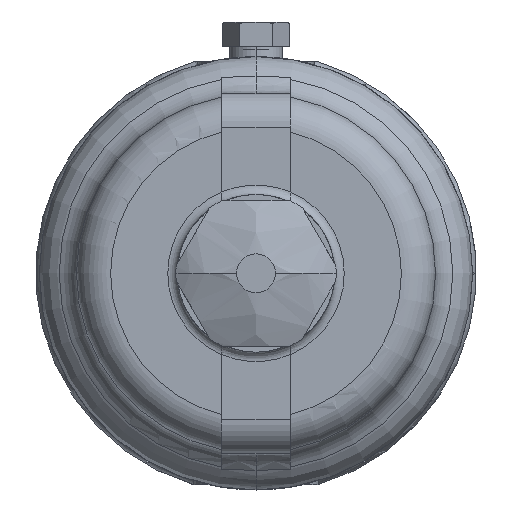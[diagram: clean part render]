
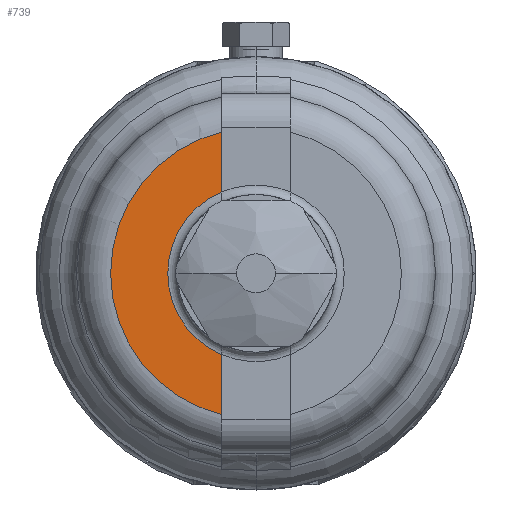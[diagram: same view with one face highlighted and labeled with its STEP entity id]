
A CAD part, left-side view. The second image highlights one B-rep face of the part: STEP entity #739.
In plain terms, the highlighted planar face has unit normal (-1, 0, 0).
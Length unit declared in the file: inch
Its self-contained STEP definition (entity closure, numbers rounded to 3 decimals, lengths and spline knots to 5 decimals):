
#16=DIRECTION('',(0.,0.,1.));
#17=VECTOR('',#16,0.77126);
#18=CARTESIAN_POINT('',(-11.1,0.44,-1.8175));
#19=LINE('',#18,#17);
#20=DIRECTION('',(0.,0.,1.));
#21=VECTOR('',#20,0.77126);
#22=CARTESIAN_POINT('',(-11.1,0.44,1.04624));
#23=LINE('',#22,#21);
#24=CARTESIAN_POINT('',(-11.1,0.,0.));
#25=DIRECTION('',(1.,0.,0.));
#26=DIRECTION('',(0.,0.388,-0.922));
#27=AXIS2_PLACEMENT_3D('',#24,#25,#26);
#98=CARTESIAN_POINT('',(-11.1,0.,0.));
#99=DIRECTION('',(1.,0.,0.));
#100=DIRECTION('',(0.,0.235,-0.972));
#101=AXIS2_PLACEMENT_3D('',#98,#99,#100);
#587=CARTESIAN_POINT('',(-11.1,0.44,-1.8175));
#588=CARTESIAN_POINT('',(-11.1,0.44,-1.04624));
#589=VERTEX_POINT('',#587);
#590=VERTEX_POINT('',#588);
#591=CARTESIAN_POINT('',(-11.1,0.44,1.04624));
#592=CARTESIAN_POINT('',(-11.1,0.44,1.8175));
#593=VERTEX_POINT('',#591);
#594=VERTEX_POINT('',#592);
#725=CARTESIAN_POINT('',(-11.1,0.,0.));
#726=DIRECTION('',(-1.,0.,0.));
#727=DIRECTION('',(0.,0.,1.));
#728=AXIS2_PLACEMENT_3D('',#725,#726,#727);
#729=PLANE('',#728);
#731=ORIENTED_EDGE('',*,*,#730,.F.);
#733=ORIENTED_EDGE('',*,*,#732,.T.);
#735=ORIENTED_EDGE('',*,*,#734,.F.);
#736=ORIENTED_EDGE('',*,*,#716,.F.);
#737=EDGE_LOOP('',(#731,#733,#735,#736));
#738=FACE_OUTER_BOUND('',#737,.F.);
#739=ADVANCED_FACE('',(#738),#729,.T.);
#28=CIRCLE('',#27,1.135);
#102=CIRCLE('',#101,1.87);
#716=EDGE_CURVE('',#590,#593,#28,.T.);
#730=EDGE_CURVE('',#589,#590,#19,.T.);
#732=EDGE_CURVE('',#589,#594,#102,.T.);
#734=EDGE_CURVE('',#593,#594,#23,.T.);
